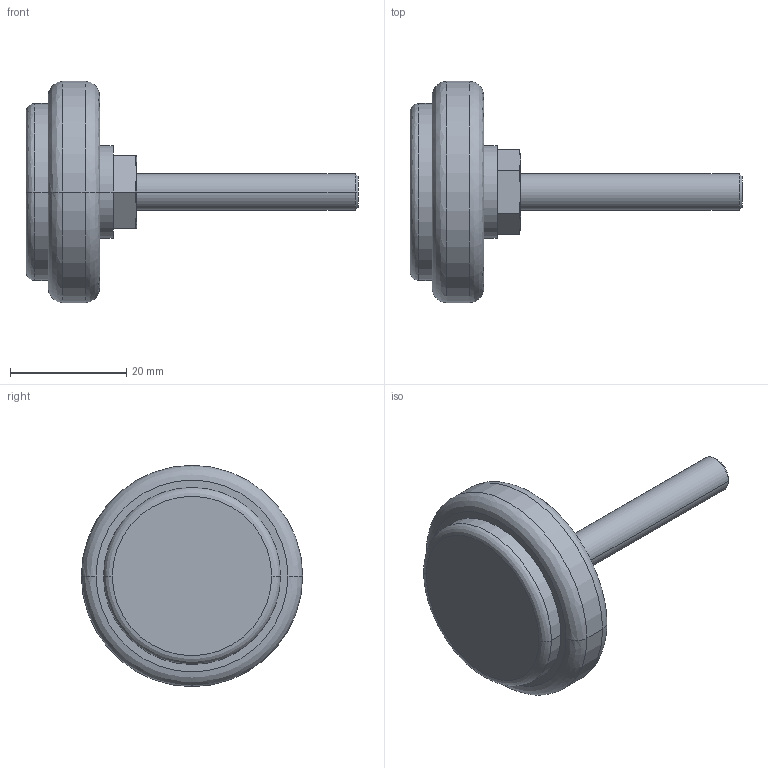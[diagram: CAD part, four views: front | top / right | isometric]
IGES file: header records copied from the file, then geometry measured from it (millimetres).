
Start section:  PTC IGES file: fse300s-part.igs
Global section: file name: fse300s-part.igs; native system: Pro/ENGINEER by Parametric Technology Corporation; preprocessor: 2002350; author: chant; organization: Unknown; date: 070618.093835; units: inch
Bounding box: 57.15 x 38.1 x 38.1 mm (x, y, z)
Surface area: 4422.7 mm2 (no closed solid volume)
Topology: 0 solids, 0 shells, 34 faces, 198 edges, 244 vertices
Faces by surface type: revolution 22, bspline 12
